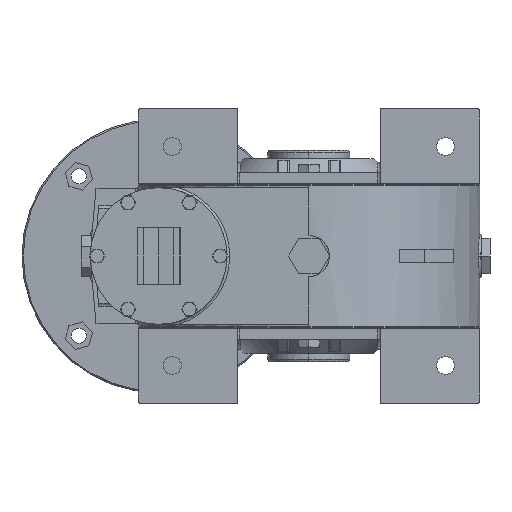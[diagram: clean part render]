
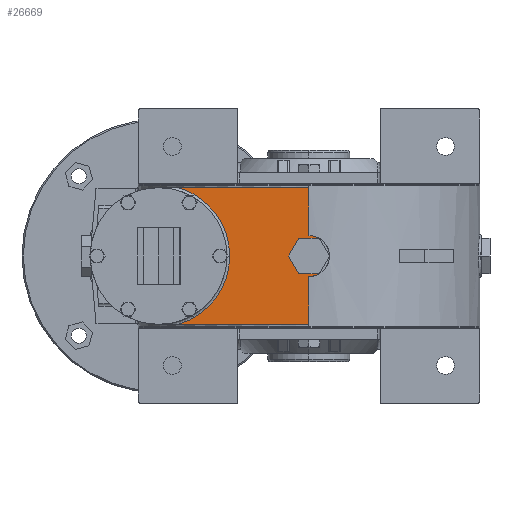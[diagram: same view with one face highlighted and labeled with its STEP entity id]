
A CAD part, left-side view. The second image highlights one B-rep face of the part: STEP entity #26669.
In plain terms, the highlighted planar face has unit normal (-1, 0, 0).
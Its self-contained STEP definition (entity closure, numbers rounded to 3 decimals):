
#25525 = ORIENTED_EDGE ( 'NONE', *, *, #25526, .F. ) ;
#25526 = EDGE_CURVE ( 'NONE', #25527, #26338, #82752, .T. ) ;
#25527 = VERTEX_POINT ( 'NONE', #82754 ) ;
#25528 = ORIENTED_EDGE ( 'NONE', *, *, #25529, .F. ) ;
#25529 = EDGE_CURVE ( 'NONE', #25541, #25527, #82753, .T. ) ;
#25530 = ORIENTED_EDGE ( 'NONE', *, *, #26412, .F. ) ;
#25531 = ORIENTED_EDGE ( 'NONE', *, *, #25532, .F. ) ;
#25532 = EDGE_CURVE ( 'NONE', #25533, #26545, #82755, .T. ) ;
#25533 = VERTEX_POINT ( 'NONE', #82621 ) ;
#25534 = ORIENTED_EDGE ( 'NONE', *, *, #25535, .F. ) ;
#25535 = EDGE_CURVE ( 'NONE', #26396, #25533, #82620, .T. ) ;
#25541 = VERTEX_POINT ( 'NONE', #82605 ) ;
#25545 = VERTEX_POINT ( 'NONE', #82599 ) ;
#25597 = EDGE_CURVE ( 'NONE', #25545, #25598, #82669, .T. ) ;
#25598 = VERTEX_POINT ( 'NONE', #82665 ) ;
#26055 = ORIENTED_EDGE ( 'NONE', *, *, #25597, .F. ) ;
#26131 = EDGE_CURVE ( 'NONE', #26133, #26341, #82907, .T. ) ;
#26133 = VERTEX_POINT ( 'NONE', #82900 ) ;
#26135 = ORIENTED_EDGE ( 'NONE', *, *, #26155, .F. ) ;
#26155 = EDGE_CURVE ( 'NONE', #25598, #26133, #82962, .T. ) ;
#26179 = ORIENTED_EDGE ( 'NONE', *, *, #26131, .F. ) ;
#26257 = EDGE_CURVE ( 'NONE', #26338, #25545, #83450, .T. ) ;
#26338 = VERTEX_POINT ( 'NONE', #83863 ) ;
#26341 = VERTEX_POINT ( 'NONE', #83856 ) ;
#26383 = EDGE_LOOP ( 'NONE', ( #26387, #26399, #26179, #26135, #26055, #26514, #25525, #25528, #25530, #25531, #25534 ) ) ;
#26387 = ORIENTED_EDGE ( 'NONE', *, *, #26389, .F. ) ;
#26389 = EDGE_CURVE ( 'NONE', #26393, #26396, #83748, .T. ) ;
#26393 = VERTEX_POINT ( 'NONE', #83744 ) ;
#26396 = VERTEX_POINT ( 'NONE', #83743 ) ;
#26399 = ORIENTED_EDGE ( 'NONE', *, *, #26401, .F. ) ;
#26401 = EDGE_CURVE ( 'NONE', #26341, #26393, #83737, .T. ) ;
#26412 = EDGE_CURVE ( 'NONE', #26545, #25541, #83659, .T. ) ;
#26514 = ORIENTED_EDGE ( 'NONE', *, *, #26257, .F. ) ;
#26545 = VERTEX_POINT ( 'NONE', #85221 ) ;
#26669 = ADVANCED_FACE ( 'NONE', ( #85459 ), #85458, .F. ) ;
#82599 = CARTESIAN_POINT ( 'NONE',  ( -125., 0., 50. ) ) ;
#82605 = CARTESIAN_POINT ( 'NONE',  ( -125., 0., -50. ) ) ;
#82617 = DIRECTION ( 'NONE',  ( 0., -1., 0. ) ) ;
#82618 = VECTOR ( 'NONE', #82617, 1000. ) ;
#82619 = CARTESIAN_POINT ( 'NONE',  ( -125., 52.131, -12.99 ) ) ;
#82620 = LINE ( 'NONE', #82619, #82618 ) ;
#82621 = CARTESIAN_POINT ( 'NONE',  ( -125., -7.5, -12.99 ) ) ;
#82622 = DIRECTION ( 'NONE',  ( 0., 0., -1. ) ) ;
#82623 = DIRECTION ( 'NONE',  ( 1., 0., 0. ) ) ;
#82624 = CARTESIAN_POINT ( 'NONE',  ( -125., 0., 0. ) ) ;
#82625 = AXIS2_PLACEMENT_3D ( 'NONE', #82624, #82623, #82622 ) ;
#82665 = CARTESIAN_POINT ( 'NONE',  ( -125., 0., 15. ) ) ;
#82666 = DIRECTION ( 'NONE',  ( 0., 0., -1. ) ) ;
#82667 = VECTOR ( 'NONE', #82666, 1000. ) ;
#82668 = CARTESIAN_POINT ( 'NONE',  ( -125., 0., 0. ) ) ;
#82669 = LINE ( 'NONE', #82668, #82667 ) ;
#82752 =( BOUNDED_CURVE ( )  B_SPLINE_CURVE ( 3, ( #82762, #82761, #82760, #82759 ),
 .UNSPECIFIED., .F., .T. ) 
 B_SPLINE_CURVE_WITH_KNOTS ( ( 4, 4 ),
 ( 0., 1. ),
 .UNSPECIFIED. ) 
 CURVE ( )  GEOMETRIC_REPRESENTATION_ITEM ( )  RATIONAL_B_SPLINE_CURVE ( ( 1., 0.516, 0.516, 1. ) ) 
 REPRESENTATION_ITEM ( '' )  );
#82753 = LINE ( 'NONE', #82758, #82757 ) ;
#82754 = CARTESIAN_POINT ( 'NONE',  ( -125., 95.717, -50. ) ) ;
#82755 = CIRCLE ( 'NONE', #82625, 15. ) ;
#82756 = DIRECTION ( 'NONE',  ( 0., 1., 0. ) ) ;
#82757 = VECTOR ( 'NONE', #82756, 1000. ) ;
#82758 = CARTESIAN_POINT ( 'NONE',  ( -125., 52.131, -50. ) ) ;
#82759 = CARTESIAN_POINT ( 'NONE',  ( -125., 95.717, 50. ) ) ;
#82760 = CARTESIAN_POINT ( 'NONE',  ( -125., 33.656, 32.272 ) ) ;
#82761 = CARTESIAN_POINT ( 'NONE',  ( -125., 33.656, -32.272 ) ) ;
#82762 = CARTESIAN_POINT ( 'NONE',  ( -125., 95.717, -50. ) ) ;
#82900 = CARTESIAN_POINT ( 'NONE',  ( -125., -7.5, 12.99 ) ) ;
#82901 = DIRECTION ( 'NONE',  ( 0., 1., 0. ) ) ;
#82902 = VECTOR ( 'NONE', #82901, 1000. ) ;
#82903 = CARTESIAN_POINT ( 'NONE',  ( -125., 52.131, 12.99 ) ) ;
#82907 = LINE ( 'NONE', #82903, #82902 ) ;
#82958 = DIRECTION ( 'NONE',  ( 0., 0., -1. ) ) ;
#82959 = DIRECTION ( 'NONE',  ( 1., 0., 0. ) ) ;
#82960 = CARTESIAN_POINT ( 'NONE',  ( -125., 0., 0. ) ) ;
#82961 = AXIS2_PLACEMENT_3D ( 'NONE', #82960, #82959, #82958 ) ;
#82962 = CIRCLE ( 'NONE', #82961, 15. ) ;
#83447 = DIRECTION ( 'NONE',  ( 0., -1., 0. ) ) ;
#83448 = VECTOR ( 'NONE', #83447, 1000. ) ;
#83449 = CARTESIAN_POINT ( 'NONE',  ( -125., 52.131, 50. ) ) ;
#83450 = LINE ( 'NONE', #83449, #83448 ) ;
#83656 = DIRECTION ( 'NONE',  ( 0., 0., -1. ) ) ;
#83657 = VECTOR ( 'NONE', #83656, 1000. ) ;
#83658 = CARTESIAN_POINT ( 'NONE',  ( -125., 0., 0. ) ) ;
#83659 = LINE ( 'NONE', #83658, #83657 ) ;
#83734 = DIRECTION ( 'NONE',  ( 0., 0.5, -0.866 ) ) ;
#83735 = VECTOR ( 'NONE', #83734, 1000. ) ;
#83736 = CARTESIAN_POINT ( 'NONE',  ( -125., 7.5, 12.99 ) ) ;
#83737 = LINE ( 'NONE', #83736, #83735 ) ;
#83743 = CARTESIAN_POINT ( 'NONE',  ( -125., 7.5, -12.99 ) ) ;
#83744 = CARTESIAN_POINT ( 'NONE',  ( -125., 15., 0. ) ) ;
#83745 = DIRECTION ( 'NONE',  ( 0., -0.5, -0.866 ) ) ;
#83746 = VECTOR ( 'NONE', #83745, 1000. ) ;
#83747 = CARTESIAN_POINT ( 'NONE',  ( -125., 15., 0. ) ) ;
#83748 = LINE ( 'NONE', #83747, #83746 ) ;
#83856 = CARTESIAN_POINT ( 'NONE',  ( -125., 7.5, 12.99 ) ) ;
#83863 = CARTESIAN_POINT ( 'NONE',  ( -125., 95.717, 50. ) ) ;
#85221 = CARTESIAN_POINT ( 'NONE',  ( -125., 0., -15. ) ) ;
#85454 = DIRECTION ( 'NONE',  ( 0., 0., -1. ) ) ;
#85455 = DIRECTION ( 'NONE',  ( 1., 0., 0. ) ) ;
#85456 = CARTESIAN_POINT ( 'NONE',  ( -125., 52.131, 0. ) ) ;
#85457 = AXIS2_PLACEMENT_3D ( 'NONE', #85456, #85455, #85454 ) ;
#85458 = PLANE ( 'NONE',  #85457 ) ;
#85459 = FACE_OUTER_BOUND ( 'NONE', #26383, .T. ) ;
